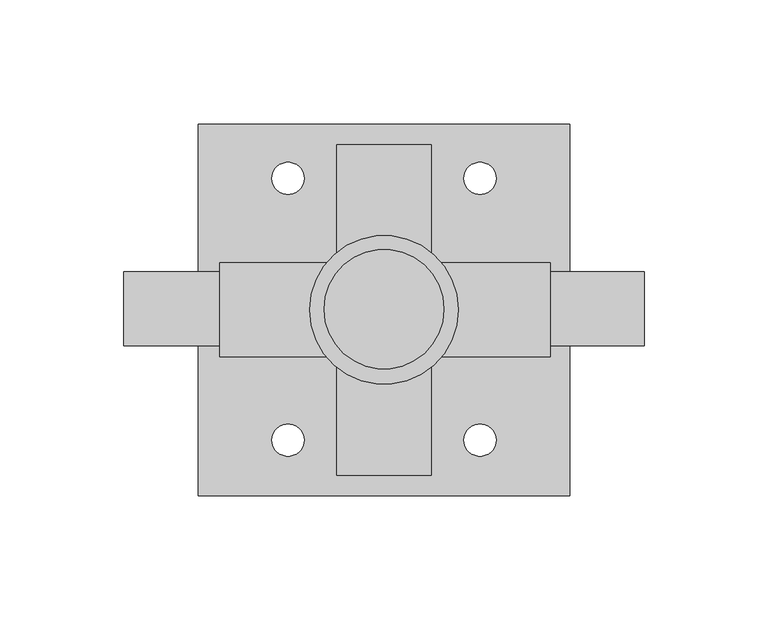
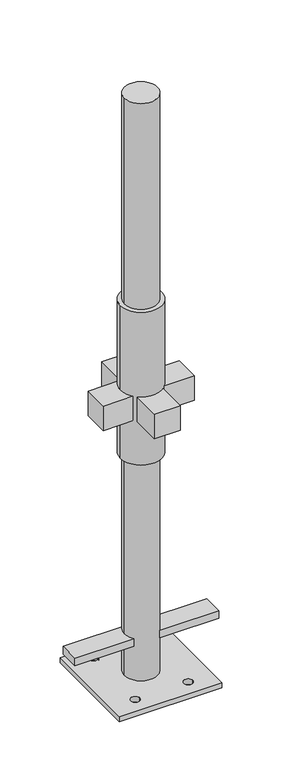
"""IFC4 building model written with IfcOpenShell, lengths in millimetres: proxy geometry, MILLS_TOEC_VERIN_DE_PIED_S : MILLS_TOEC_VERIN_DE_PIED."""

from ifc_helpers import new_model, si_unit, point, frame, frame_2d, origin, origin_with_axes, place, context, project, spatial, polyline, circle_curve, trimmed, segment, composite_curve, outline, extrude, source, transform, mapped, element, save


def specialty_equipment_34e7ce4f(model_context):
    return source(origin(), model_context, "Body", "SweptSolid", [
        extrude(outline(polyline([(-86.6475729, 66.2385081), (-86.6475729, 18.4885081), (-38.5114202, 18.4885081), (-38.5114202, -19.5114919), (-86.6475729, -19.5114919), (-86.6475729, -67.2614919), (-124.6475729, -67.2614919), (-124.6475729, -19.5114919), (-172.0114202, -19.5114919), (-172.0114202, 18.4885081), (-124.6475729, 18.4885081), (-124.6475729, 66.2385081), (-86.6475729, 66.2385081)])), frame((0.0, 0.0, 412.6), z_axis=(0.0, 0.0, 1.0), x_axis=(1.0, 0.0, 0.0)), (0.0, 0.0, 1.0), 38.0),
        extrude(outline(polyline([(-0.6475729, 15.0), (-0.6475729, -15.0), (-210.6475729, -15.0), (-210.6475729, 15.0), (-0.6475729, 15.0)])), frame((0.0, 0.0, 60.0), z_axis=(0.0, 0.0, 1.0), x_axis=(1.0, 0.0, 0.0)), (0.0, 0.0, 1.0), 12.0),
        extrude(outline(composite_curve([segment(trimmed(circle_curve(frame_2d((-105.6475729, -0.5114919)), 30.0), [point((-135.6475729, -0.5114919))], [point((-75.6475729, -0.5114919))], False, "CARTESIAN"), True, "CONTINUOUS"), segment(trimmed(circle_curve(frame_2d((-105.6475729, -0.5114919)), 30.0), [point((-75.6475729, -0.5114919))], [point((-135.6475729, -0.5114919))], False, "CARTESIAN"), True, "CONTINUOUS")], self_intersect=False)), frame((0.0, 0.0, 345.6), z_axis=(0.0, 0.0, 1.0), x_axis=(1.0, 0.0, 0.0)), (0.0, 0.0, 1.0), 236.0),
        extrude(outline(composite_curve([segment(trimmed(circle_curve(frame_2d((-105.6475729, -0.2844378)), 24.15), [point((-129.7975729, -0.2844378))], [point((-81.4975729, -0.2844378))], False, "CARTESIAN"), True, "CONTINUOUS"), segment(trimmed(circle_curve(frame_2d((-105.6475729, -0.2844378)), 24.15), [point((-81.4975729, -0.2844378))], [point((-129.7975729, -0.2844378))], False, "CARTESIAN"), True, "CONTINUOUS")], self_intersect=False)), frame((0.0, 0.0, 8.0), z_axis=(0.0, 0.0, 1.0), x_axis=(1.0, 0.0, 0.0)), (0.0, 0.0, 1.0), 892.0),
        extrude(outline(polyline([(-30.6475729, 74.4885081), (-30.6475729, -75.5114919), (-180.6475729, -75.5114919), (-180.6475729, 74.4885081), (-30.6475729, 74.4885081)]), holes=[composite_curve([segment(trimmed(circle_curve(frame_2d((-144.3975729, 52.6451272)), 6.5), [point((-150.8975729, 52.6451272))], [point((-137.8975729, 52.6451272))], True, "CARTESIAN"), True, "CONTINUOUS"), segment(trimmed(circle_curve(frame_2d((-144.3975729, 52.6451272)), 6.5), [point((-137.8975729, 52.6451272))], [point((-150.8975729, 52.6451272))], True, "CARTESIAN"), True, "CONTINUOUS")], self_intersect=False), composite_curve([segment(trimmed(circle_curve(frame_2d((-66.8975729, 52.6451272)), 6.5), [point((-73.3975729, 52.6451272))], [point((-60.3975729, 52.6451272))], True, "CARTESIAN"), True, "CONTINUOUS"), segment(trimmed(circle_curve(frame_2d((-66.8975729, 52.6451272)), 6.5), [point((-60.3975729, 52.6451272))], [point((-73.3975729, 52.6451272))], True, "CARTESIAN"), True, "CONTINUOUS")], self_intersect=False), composite_curve([segment(trimmed(circle_curve(frame_2d((-66.8975729, -53.0114919)), 6.5), [point((-73.3975729, -53.0114919))], [point((-60.3975729, -53.0114919))], True, "CARTESIAN"), True, "CONTINUOUS"), segment(trimmed(circle_curve(frame_2d((-66.8975729, -53.0114919)), 6.5), [point((-60.3975729, -53.0114919))], [point((-73.3975729, -53.0114919))], True, "CARTESIAN"), True, "CONTINUOUS")], self_intersect=False), composite_curve([segment(trimmed(circle_curve(frame_2d((-144.3975729, -53.0114919)), 6.5), [point((-150.8975729, -53.0114919))], [point((-137.8975729, -53.0114919))], True, "CARTESIAN"), True, "CONTINUOUS"), segment(trimmed(circle_curve(frame_2d((-144.3975729, -53.0114919)), 6.5), [point((-137.8975729, -53.0114919))], [point((-150.8975729, -53.0114919))], True, "CARTESIAN"), True, "CONTINUOUS")], self_intersect=False)]), origin_with_axes(), (0.0, 0.0, 1.0), 8.0),
    ])


if __name__ == "__main__":
    model = new_model("IFC4")
    model_context = context("Model", 3, world=origin())
    ifc_project = project(units=[si_unit("LENGTHUNIT", "METRE", prefix="MILLI")], contexts=[model_context])
    site = spatial("IfcSite", under=ifc_project)
    building = spatial("IfcBuilding", under=site)
    placement = place(None, origin())
    specialty_equipment_shape = specialty_equipment_34e7ce4f(model_context)
    element("IfcBuildingElementProxy", 1, Name="MILLS_TOEC_VERIN_DE_PIED_S : MILLS_TOEC_VERIN_DE_PIED", ObjectType="MILLS_TOEC_VERIN_DE_PIED_S : MILLS_TOEC_VERIN_DE_PIED", at=placement, inside=building, context=model_context, shape_type="MappedRepresentation", body=[
        mapped(specialty_equipment_shape, transform((0.0, 0.0, 0.0), x_axis=(1.0, 0.0, 0.0), y_axis=(0.0, 1.0, 0.0), z_axis=(0.0, 0.0, 1.0))),
    ])
    save(model, "model.ifc")
